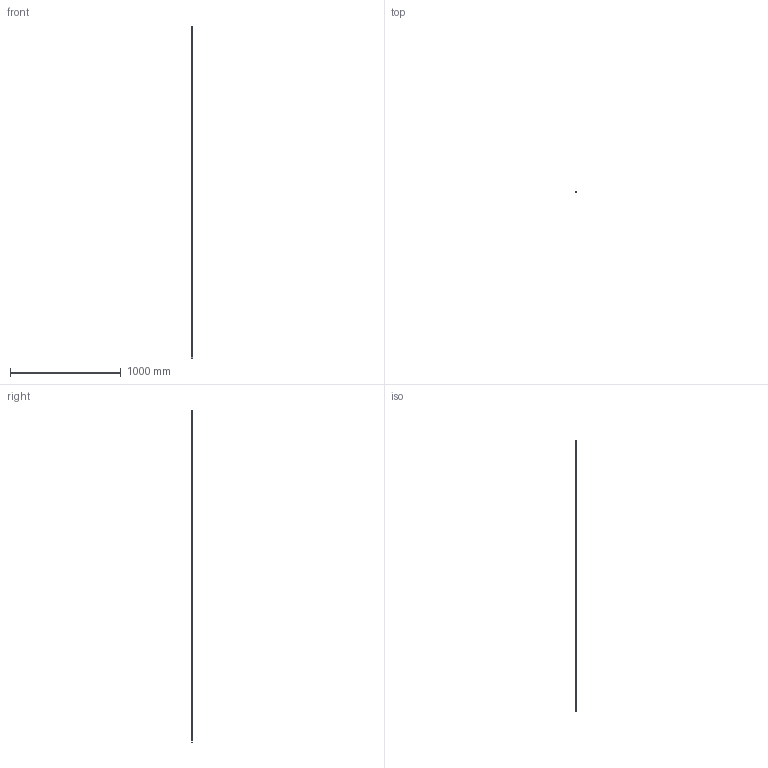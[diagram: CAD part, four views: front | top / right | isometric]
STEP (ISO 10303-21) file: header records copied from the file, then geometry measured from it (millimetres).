
FILE_DESCRIPTION(/* description */ (''),/* implementation_level */ '2;1');
FILE_NAME(/* name */ '6201066_Art. 0758.stp',/* time_stamp */ '2019-06-12T12:08:15+02:00',/* author */ (''),/* organization */ (''),/* preprocessor_version */ 'ST-DEVELOPER v16.7',/* originating_system */ 'SIEMENS PLM Software NX 12.0',/* authorisation */ '');
FILE_SCHEMA (('AUTOMOTIVE_DESIGN { 1 0 10303 214 3 1 1 1 }'));
Length unit declared in the file: millimetre
Products named in the file (1): p.sc256824D8yype
Bounding box: 16 x 3.44 x 3000 mm (x, y, z)
Volume: 55762.4 mm3; surface area: 131186.6 mm2
Topology: 1 solids, 1 shells, 40 faces, 114 edges, 76 vertices
Faces by surface type: plane 22, cylinder 18
Entity records: 1346 total; most frequent: DIRECTION 232, CARTESIAN_POINT 231, ORIENTED_EDGE 228, EDGE_CURVE 114, LINE 78, VECTOR 78, AXIS2_PLACEMENT_3D 77, VERTEX_POINT 76
